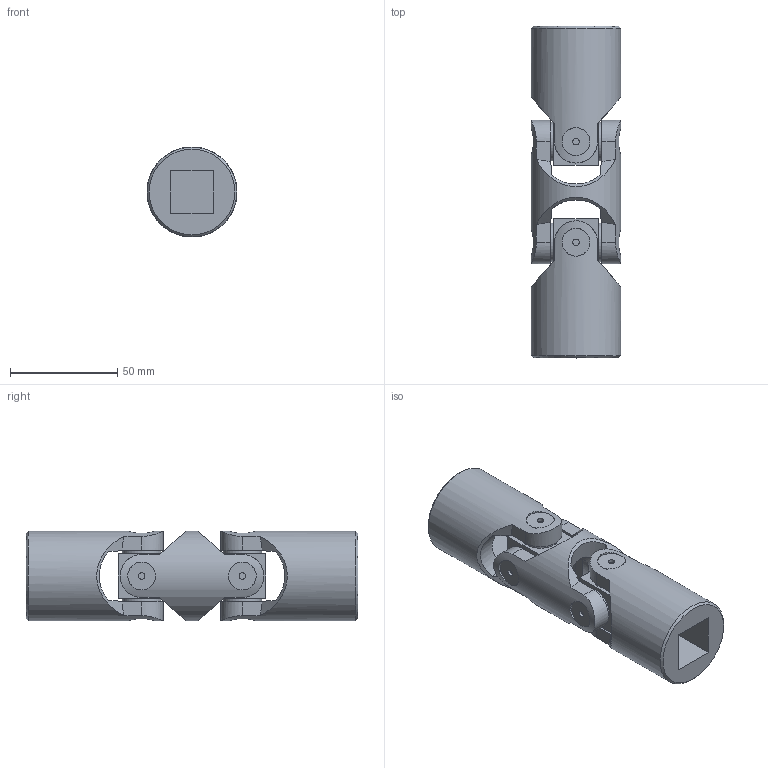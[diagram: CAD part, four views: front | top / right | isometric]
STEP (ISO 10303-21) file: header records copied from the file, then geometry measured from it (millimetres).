
FILE_DESCRIPTION(/* description */ (''),/* implementation_level */ '2;1');
FILE_NAME(/* name */ '\\SRV2016\Societa\Stefano\Disegni 3D\00Catalogo 3D\02Doppi GD-GBD\SGBD202Q.stp',/* time_stamp */ '2021-11-23T13:35:42+01:00',/* author */ ('acquisti'),/* organization */ (''),/* preprocessor_version */ 'ST-DEVELOPER v15.6',/* originating_system */ 'Autodesk Inventor 2015',/* authorisation */ '');
FILE_SCHEMA (('AUTOMOTIVE_DESIGN { 1 0 10303 214 3 1 1 }'));
Length unit declared in the file: millimetre
Products named in the file (4): 3G MOD; 3G SFE; 5GB MOQ; Ø42_5GBD-00_SGBD2500
Assembly tree (5 placements, depth 2):
  Ø42_5GBD-00_SGBD2500
    3G MOD
    3G SFE  x2
    5GB MOQ  x2
Bounding box: 42 x 155 x 42 mm (x, y, z)
Volume: 139209.2 mm3; surface area: 40647.8 mm2
Topology: 5 solids, 5 shells, 179 faces, 435 edges, 286 vertices
Faces by surface type: plane 78, cylinder 69, cone 28, torus 4
Full cylindrical faces by diameter (mm): 3 x8, 18 x8, 22 x2, 42 x3
Entity records: 4108 total; most frequent: CARTESIAN_POINT 1411, ORIENTED_EDGE 548, DIRECTION 510, EDGE_CURVE 274, AXIS2_PLACEMENT_3D 223, VERTEX_POINT 192, EDGE_LOOP 158, FACE_OUTER_BOUND 121
